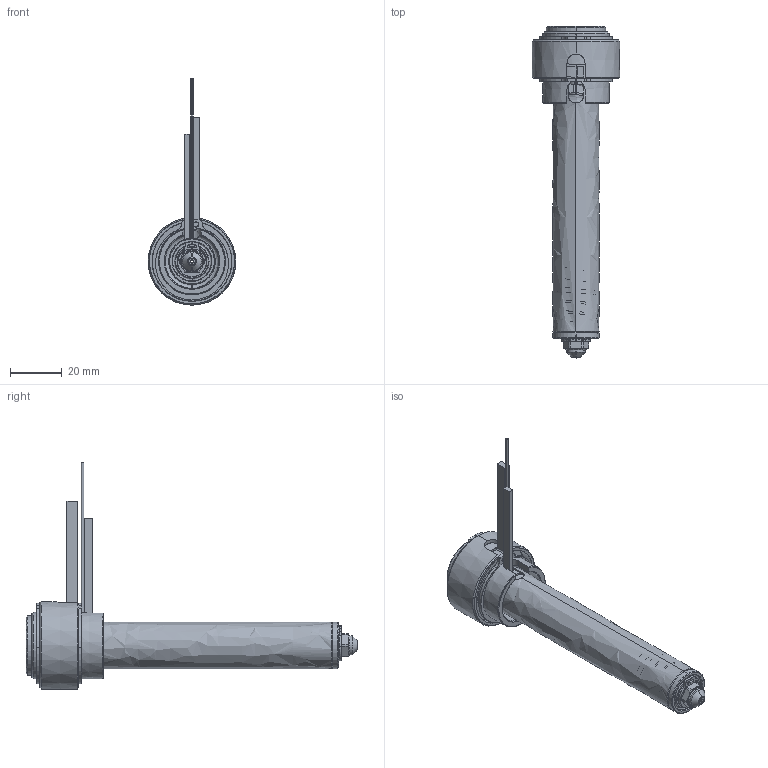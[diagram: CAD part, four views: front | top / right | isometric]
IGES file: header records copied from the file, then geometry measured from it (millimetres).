
Start section: SolidWorks IGES file using analytic representation for surfaces
Global section: file name: C:\Documents and Settings\ws-20\Desktop\TEM\UGER2504-M-A-1 [Øb-1.30 ØC-5.0].IGS; native system: SolidWorks 2012; preprocessor: SolidWorks 2012; author: ws-20; date: 120405.105406; units: millimetre
Bounding box: 34 x 128.9 x 87.9 mm (x, y, z)
Surface area: 22331.7 mm2 (no closed solid volume)
Topology: 0 solids, 0 shells, 186 faces, 2407 edges, 2407 vertices
Faces by surface type: revolution 116, bspline 70
